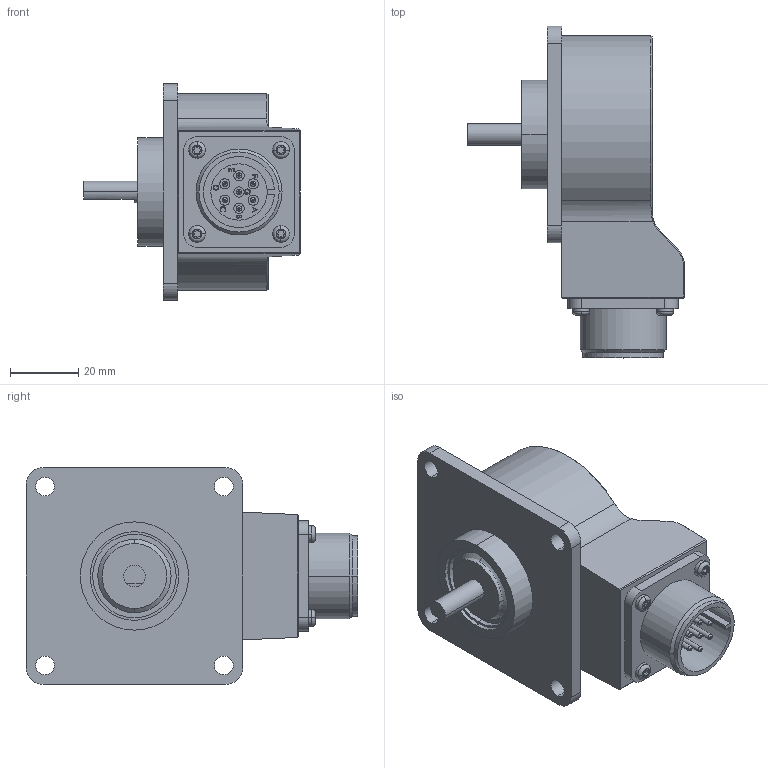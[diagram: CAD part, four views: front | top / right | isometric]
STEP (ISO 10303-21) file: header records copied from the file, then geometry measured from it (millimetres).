
FILE_DESCRIPTION (( 'STEP AP203' ), '1' );
FILE_NAME ('K58I.OXX.XXXXX.XS1Q51A.6XRCH.step', '2025-12-08T16:26:10', ( '' ), ( '' ), 'SwSTEP 2.0', 'SolidWorks 2021', '' );
FILE_SCHEMA (( 'CONFIG_CONTROL_DESIGN' ));
Length unit declared in the file: millimetre
Products named in the file (1): K58I.OXX.XXXXX.XS1Q51A.6XRCH
Bounding box: 63.56 x 97.25 x 63.5 mm (x, y, z)
Volume: 141421.6 mm3; surface area: 37265.4 mm2
Topology: 6 solids, 6 shells, 370 faces, 900 edges, 584 vertices
Faces by surface type: cylinder 157, plane 135, bspline 50, torus 18, cone 10
Entity records: 14746 total; most frequent: CARTESIAN_POINT 6021, ORIENTED_EDGE 1800, DIRECTION 1771, EDGE_CURVE 900, AXIS2_PLACEMENT_3D 672, VERTEX_POINT 584, EDGE_LOOP 428, VECTOR 427
